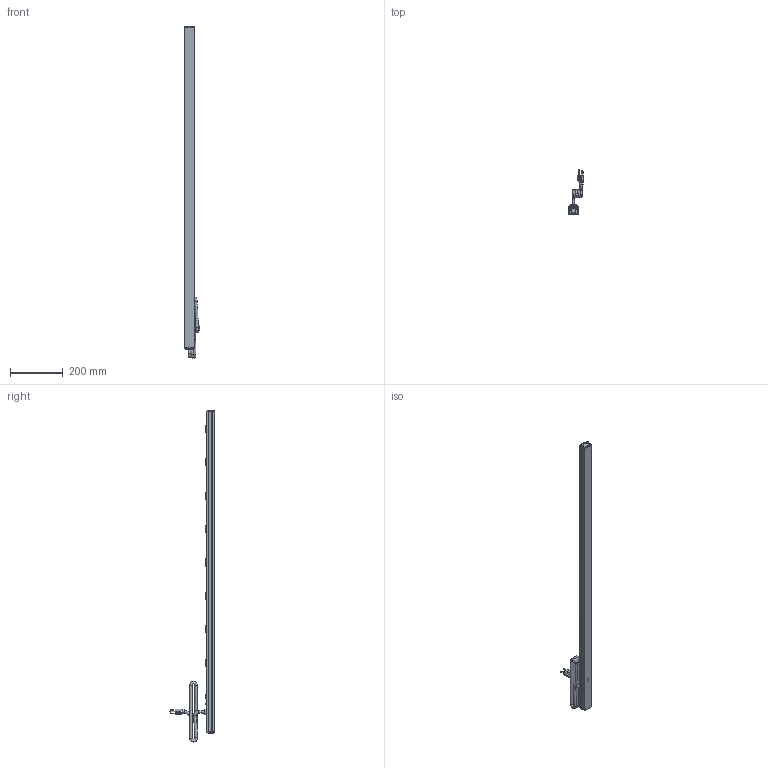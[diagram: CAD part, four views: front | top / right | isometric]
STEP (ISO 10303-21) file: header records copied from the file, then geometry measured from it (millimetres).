
FILE_DESCRIPTION((''),'2;1');
FILE_NAME('E:\Dutton\Manufacturing\drawings\Updated 2009\Vertical Rack Mount Strips\1585 T series\STEP''s\1585H8A1.stp','2010-01-18T13:08:18',('tfoster'),(''),'Autodesk Inventor 2010','Autodesk Inventor 2010','');
FILE_SCHEMA(('AUTOMOTIVE_DESIGN { 1 0 10303 214 1 1 1 1 }'));
Products named in the file (14): 1585H8A1; 1585H8 top; 1585 bottom; End Cap; End Cap w breaker; Reset Switch; #6 - 0.375 Type A screw; Cored 2; toothwasher; round head 1-way 8-32 x 0.5 screw; Power Switch Assembly; Power Switch; Power Switch pt; Receptacle
Assembly tree (23 placements, depth 3):
  1585H8A1
    1585H8 top
    1585 bottom
    End Cap
    End Cap w breaker
    Reset Switch
    #6 - 0.375 Type A screw  x4
    Cored 2
    toothwasher
    round head 1-way 8-32 x 0.5 screw
    Power Switch Assembly
      Power Switch
      Power Switch pt
    Receptacle  x8
Bounding box: 60.19 x 170.82 x 1262.78 mm (x, y, z)
Volume: 498813.8 mm3; surface area: 477923.2 mm2
Topology: 22 solids, 22 shells, 1123 faces, 3238 edges, 2155 vertices
Faces by surface type: plane 662, cylinder 244, bspline 139, sphere 38, cone 25, torus 15
Full cylindrical faces by diameter (mm): 1 x2, 1.803 x3, 1.905 x2, 3 x2, 3.175 x12, 4.3 x1, 4.775 x1, 4.826 x1, 7.849 x1, 9.5 x5, 11 x1, 15.621 x1, 19.05 x2
Entity records: 27275 total; most frequent: CARTESIAN_POINT 9716, ORIENTED_EDGE 3800, DIRECTION 3143, EDGE_CURVE 1900, VERTEX_POINT 1340, VECTOR 1103, LINE 1103, AXIS2_PLACEMENT_3D 1020
